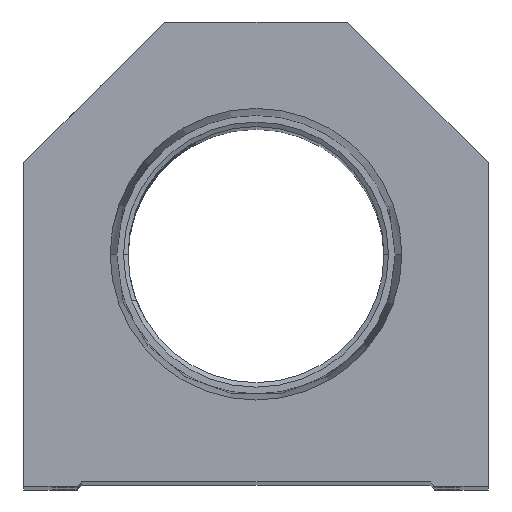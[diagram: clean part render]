
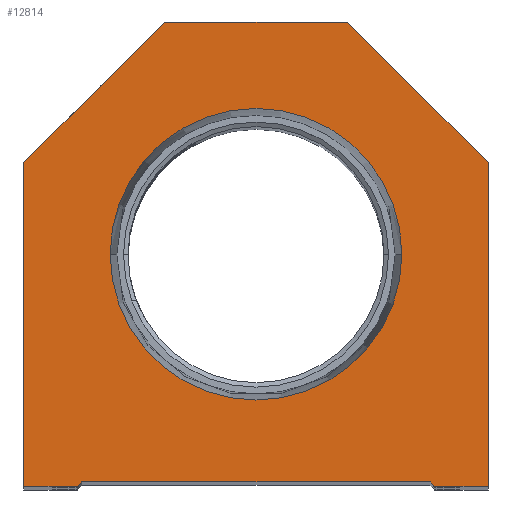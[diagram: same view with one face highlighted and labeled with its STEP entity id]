
A CAD part, top view. The second image highlights one B-rep face of the part: STEP entity #12814.
In plain terms, the highlighted planar face has unit normal (0, 0, 1).
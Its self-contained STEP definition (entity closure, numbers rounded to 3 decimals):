
#109 = CARTESIAN_POINT ( 'NONE',  ( -25.4, 0., 0. ) ) ;
#153 = DIRECTION ( 'NONE',  ( 0.707, 0.707, 0. ) ) ;
#244 = CARTESIAN_POINT ( 'NONE',  ( -9.775, 9.775, 0. ) ) ;
#520 = EDGE_CURVE ( 'NONE', #10095, #2774, #12713, .T. ) ;
#824 = VECTOR ( 'NONE', #6959, 1000. ) ;
#911 = VECTOR ( 'NONE', #4926, 1000. ) ;
#951 = VECTOR ( 'NONE', #4132, 1000. ) ;
#1090 = CARTESIAN_POINT ( 'NONE',  ( 25.4, 0., 0. ) ) ;
#1444 = DIRECTION ( 'NONE',  ( 1., 0., 0. ) ) ;
#1716 = DIRECTION ( 'NONE',  ( 1., 0., 0. ) ) ;
#1777 = DIRECTION ( 'NONE',  ( 1., 0., 0. ) ) ;
#1821 = CARTESIAN_POINT ( 'NONE',  ( 25.4, 35.4, 0. ) ) ;
#1994 = CARTESIAN_POINT ( 'NONE',  ( 10., 50.8, 0. ) ) ;
#2212 = CARTESIAN_POINT ( 'NONE',  ( -19.05, 0., 0. ) ) ;
#2515 = LINE ( 'NONE', #9476, #951 ) ;
#2707 = EDGE_CURVE ( 'NONE', #8138, #17562, #18245, .T. ) ;
#2774 = VERTEX_POINT ( 'NONE', #9094 ) ;
#3731 = CARTESIAN_POINT ( 'NONE',  ( 19.55, 0., 0. ) ) ;
#3753 = ORIENTED_EDGE ( 'NONE', *, *, #2707, .T. ) ;
#4085 = VECTOR ( 'NONE', #153, 1000. ) ;
#4132 = DIRECTION ( 'NONE',  ( -0.707, -0.707, 0. ) ) ;
#4491 = EDGE_CURVE ( 'NONE', #4996, #14372, #14061, .T. ) ;
#4588 = CARTESIAN_POINT ( 'NONE',  ( 0., 25.4, 0. ) ) ;
#4923 = ORIENTED_EDGE ( 'NONE', *, *, #17220, .T. ) ;
#4926 = DIRECTION ( 'NONE',  ( -0.707, 0.707, 0. ) ) ;
#4996 = VERTEX_POINT ( 'NONE', #15563 ) ;
#5002 = VERTEX_POINT ( 'NONE', #9629 ) ;
#5074 = ORIENTED_EDGE ( 'NONE', *, *, #15572, .F. ) ;
#5120 = DIRECTION ( 'NONE',  ( 1., 0., 0. ) ) ;
#5272 = VECTOR ( 'NONE', #1777, 1000. ) ;
#5563 = AXIS2_PLACEMENT_3D ( 'NONE', #4588, #8380, #17354 ) ;
#5583 = CARTESIAN_POINT ( 'NONE',  ( 9.775, 9.775, 0. ) ) ;
#5803 = EDGE_CURVE ( 'NONE', #8259, #4996, #17467, .T. ) ;
#6117 = DIRECTION ( 'NONE',  ( 0., 0., 1. ) ) ;
#6281 = CARTESIAN_POINT ( 'NONE',  ( 19.05, 0., 0. ) ) ;
#6959 = DIRECTION ( 'NONE',  ( 0., -1., 0. ) ) ;
#6966 = EDGE_CURVE ( 'NONE', #7199, #8138, #2515, .T. ) ;
#7080 = DIRECTION ( 'NONE',  ( 0., 0., 1. ) ) ;
#7166 = CARTESIAN_POINT ( 'NONE',  ( 0., 25.4, 0. ) ) ;
#7199 = VERTEX_POINT ( 'NONE', #12866 ) ;
#7381 = VECTOR ( 'NONE', #16239, 1000. ) ;
#7517 = EDGE_LOOP ( 'NONE', ( #10394, #5074 ) ) ;
#7529 = CARTESIAN_POINT ( 'NONE',  ( 0., 0., 0. ) ) ;
#7923 = VECTOR ( 'NONE', #11984, 1000. ) ;
#8112 = CARTESIAN_POINT ( 'NONE',  ( -25.4, 35.4, 0. ) ) ;
#8138 = VERTEX_POINT ( 'NONE', #8112 ) ;
#8259 = VERTEX_POINT ( 'NONE', #17774 ) ;
#8380 = DIRECTION ( 'NONE',  ( 0., 0., 1. ) ) ;
#8824 = CARTESIAN_POINT ( 'NONE',  ( -19.05, 0.5, 0. ) ) ;
#8914 = VERTEX_POINT ( 'NONE', #1090 ) ;
#9094 = CARTESIAN_POINT ( 'NONE',  ( -15.947, 25.4, 0. ) ) ;
#9460 = EDGE_CURVE ( 'NONE', #10604, #8259, #10249, .T. ) ;
#9476 = CARTESIAN_POINT ( 'NONE',  ( -25.4, 35.4, 0. ) ) ;
#9629 = CARTESIAN_POINT ( 'NONE',  ( 10., 50.8, 0. ) ) ;
#10089 = ORIENTED_EDGE ( 'NONE', *, *, #11918, .T. ) ;
#10095 = VERTEX_POINT ( 'NONE', #14540 ) ;
#10249 = LINE ( 'NONE', #244, #4085 ) ;
#10370 = AXIS2_PLACEMENT_3D ( 'NONE', #7166, #7080, #1444 ) ;
#10394 = ORIENTED_EDGE ( 'NONE', *, *, #520, .F. ) ;
#10510 = CARTESIAN_POINT ( 'NONE',  ( 25.4, 35.4, 0. ) ) ;
#10560 = VERTEX_POINT ( 'NONE', #1821 ) ;
#10604 = VERTEX_POINT ( 'NONE', #14825 ) ;
#10786 = CARTESIAN_POINT ( 'NONE',  ( -25.4, 0., 0. ) ) ;
#10891 = LINE ( 'NONE', #13795, #7381 ) ;
#11187 = EDGE_CURVE ( 'NONE', #14372, #8914, #12175, .T. ) ;
#11258 = ORIENTED_EDGE ( 'NONE', *, *, #6966, .T. ) ;
#11284 = CIRCLE ( 'NONE', #10370, 15.947 ) ;
#11730 = PLANE ( 'NONE',  #16925 ) ;
#11881 = EDGE_LOOP ( 'NONE', ( #4923, #15228, #17707, #13475, #12938, #14992, #16278, #10089, #11258, #3753 ) ) ;
#11918 = EDGE_CURVE ( 'NONE', #5002, #7199, #11917, .T. ) ;
#11917 = LINE ( 'NONE', #1994, #16283 ) ;
#11984 = DIRECTION ( 'NONE',  ( 1., 0., 0. ) ) ;
#12175 = LINE ( 'NONE', #6281, #7923 ) ;
#12658 = EDGE_CURVE ( 'NONE', #8914, #10560, #10891, .T. ) ;
#12713 = CIRCLE ( 'NONE', #5563, 15.947 ) ;
#12814 = ADVANCED_FACE ( 'NONE', ( #16018, #17592 ), #11730, .T. ) ;
#12866 = CARTESIAN_POINT ( 'NONE',  ( -10., 50.8, 0. ) ) ;
#12938 = ORIENTED_EDGE ( 'NONE', *, *, #11187, .T. ) ;
#12994 = VECTOR ( 'NONE', #13972, 1000. ) ;
#13475 = ORIENTED_EDGE ( 'NONE', *, *, #4491, .T. ) ;
#13795 = CARTESIAN_POINT ( 'NONE',  ( 25.4, 0., 0. ) ) ;
#13972 = DIRECTION ( 'NONE',  ( 0.707, -0.707, 0. ) ) ;
#14061 = LINE ( 'NONE', #5583, #12994 ) ;
#14372 = VERTEX_POINT ( 'NONE', #3731 ) ;
#14540 = CARTESIAN_POINT ( 'NONE',  ( 15.947, 25.4, 0. ) ) ;
#14825 = CARTESIAN_POINT ( 'NONE',  ( -19.55, 0., 0. ) ) ;
#14904 = LINE ( 'NONE', #10510, #911 ) ;
#14992 = ORIENTED_EDGE ( 'NONE', *, *, #12658, .T. ) ;
#14999 = LINE ( 'NONE', #2212, #17675 ) ;
#15228 = ORIENTED_EDGE ( 'NONE', *, *, #9460, .T. ) ;
#15264 = EDGE_CURVE ( 'NONE', #10560, #5002, #14904, .T. ) ;
#15563 = CARTESIAN_POINT ( 'NONE',  ( 19.05, 0.5, 0. ) ) ;
#15572 = EDGE_CURVE ( 'NONE', #2774, #10095, #11284, .T. ) ;
#16018 = FACE_BOUND ( 'NONE', #7517, .T. ) ;
#16239 = DIRECTION ( 'NONE',  ( 0., 1., 0. ) ) ;
#16278 = ORIENTED_EDGE ( 'NONE', *, *, #15264, .T. ) ;
#16283 = VECTOR ( 'NONE', #17593, 1000. ) ;
#16925 = AXIS2_PLACEMENT_3D ( 'NONE', #7529, #6117, #1716 ) ;
#17220 = EDGE_CURVE ( 'NONE', #17562, #10604, #14999, .T. ) ;
#17354 = DIRECTION ( 'NONE',  ( 1., 0., 0. ) ) ;
#17467 = LINE ( 'NONE', #8824, #5272 ) ;
#17562 = VERTEX_POINT ( 'NONE', #10786 ) ;
#17592 = FACE_OUTER_BOUND ( 'NONE', #11881, .T. ) ;
#17593 = DIRECTION ( 'NONE',  ( -1., 0., 0. ) ) ;
#17675 = VECTOR ( 'NONE', #5120, 1000. ) ;
#17707 = ORIENTED_EDGE ( 'NONE', *, *, #5803, .T. ) ;
#17774 = CARTESIAN_POINT ( 'NONE',  ( -19.05, 0.5, 0. ) ) ;
#18245 = LINE ( 'NONE', #109, #824 ) ;
